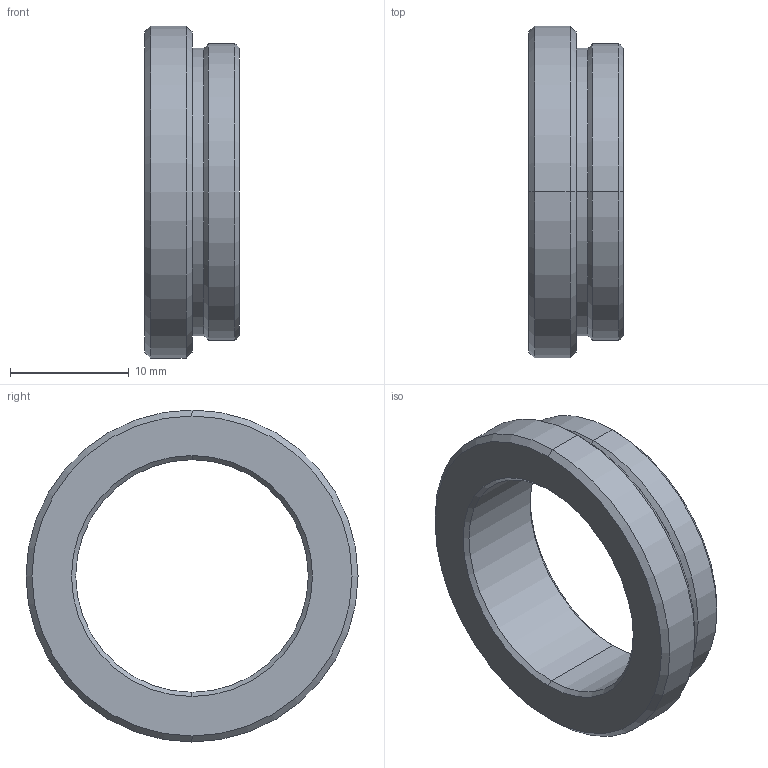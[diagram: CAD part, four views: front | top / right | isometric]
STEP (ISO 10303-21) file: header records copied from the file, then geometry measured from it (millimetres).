
FILE_DESCRIPTION (( 'STEP AP203' ), '1' );
FILE_NAME ('AD-MS1N-OL.STEP', '2018-11-07T08:49:13', ( '' ), ( '' ), 'SwSTEP 2.0', 'SolidWorks 2018', '' );
FILE_SCHEMA (( 'CONFIG_CONTROL_DESIGN' ));
Length unit declared in the file: millimetre
Products named in the file (1): AD-MS1N-OL
Bounding box: 8 x 28 x 28 mm (x, y, z)
Volume: 1939.9 mm3; surface area: 1729.6 mm2
Topology: 1 solids, 1 shells, 23 faces, 46 edges, 26 vertices
Faces by surface type: cone 12, cylinder 8, plane 3
Entity records: 675 total; most frequent: DIRECTION 120, CARTESIAN_POINT 96, ORIENTED_EDGE 92, AXIS2_PLACEMENT_3D 50, EDGE_CURVE 46, EDGE_LOOP 26, VERTEX_POINT 26, CIRCLE 26
